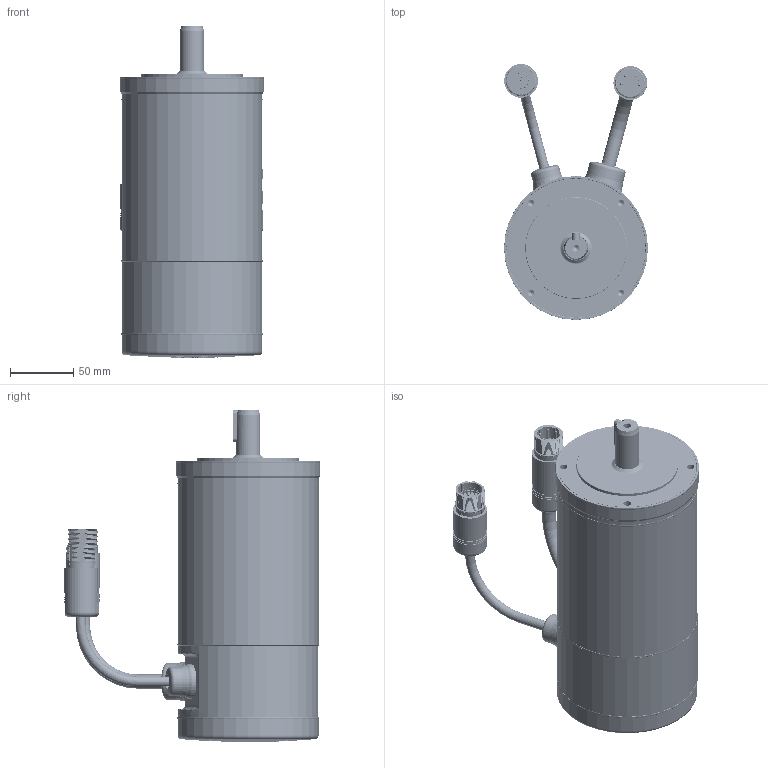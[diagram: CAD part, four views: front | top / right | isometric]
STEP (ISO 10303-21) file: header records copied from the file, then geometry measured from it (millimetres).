
FILE_DESCRIPTION (( 'STEP AP203' ), '1' );
FILE_NAME ('999-001-2162-M542-GK07-04W9-N03S-N.STEP', '2020-08-26T14:34:53', ( '' ), ( '' ), 'SwSTEP 2.0', 'SolidWorks 2019', '' );
FILE_SCHEMA (( 'CONFIG_CONTROL_DESIGN' ));
Length unit declared in the file: inch
Products named in the file (1): 999-001-2162-M542-GK07-04W9-N03S-N
Bounding box: 113.39 x 201.8 x 261.57 mm (x, y, z)
Volume: 940732.6 mm3; surface area: 335734.4 mm2
Topology: 50 solids, 50 shells, 5034 faces, 13292 edges, 8696 vertices
Faces by surface type: plane 2122, cylinder 1502, bspline 800, torus 398, cone 113, sphere 99
Entity records: 329923 total; most frequent: CARTESIAN_POINT 210944, ORIENTED_EDGE 26468, DIRECTION 23012, EDGE_CURVE 13234, VERTEX_POINT 8696, AXIS2_PLACEMENT_3D 8480, LINE 6052, VECTOR 6052
